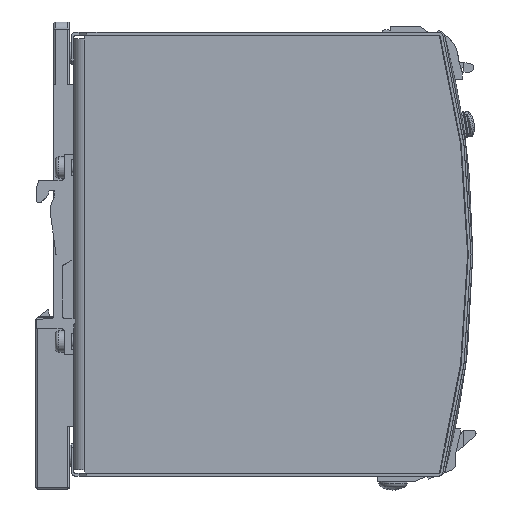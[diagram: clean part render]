
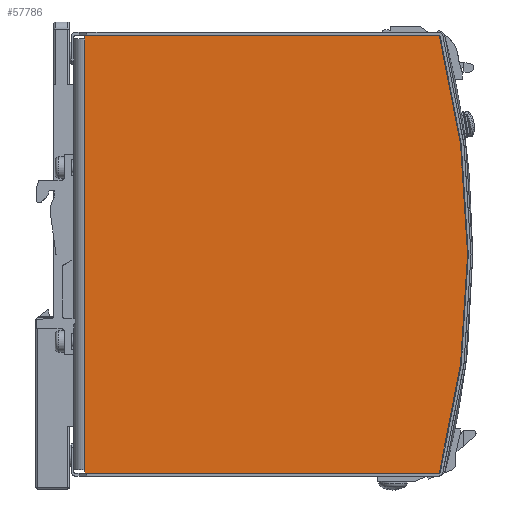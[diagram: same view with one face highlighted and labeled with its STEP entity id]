
A CAD part, front view. The second image highlights one B-rep face of the part: STEP entity #57786.
In plain terms, the highlighted planar face has unit normal (0, -1, 0).
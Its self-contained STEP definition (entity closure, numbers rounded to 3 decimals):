
#2279=CIRCLE('',#60751,240.);
#3209=FACE_OUTER_BOUND('',#6177,.T.);
#6177=EDGE_LOOP('',(#38558,#38559,#38560,#38561,#38562,#38563));
#10152=LINE('',#78587,#17270);
#10161=LINE('',#78615,#17279);
#10169=LINE('',#78626,#17287);
#10171=LINE('',#78630,#17289);
#10173=LINE('',#78633,#17291);
#17270=VECTOR('',#64361,1.);
#17279=VECTOR('',#64384,1.);
#17287=VECTOR('',#64398,99.079);
#17289=VECTOR('',#64404,120.3);
#17291=VECTOR('',#64408,99.079);
#24377=VERTEX_POINT('',#78545);
#24378=VERTEX_POINT('',#78547);
#24384=VERTEX_POINT('',#78561);
#24394=VERTEX_POINT('',#78585);
#24395=VERTEX_POINT('',#78589);
#24406=VERTEX_POINT('',#78614);
#30020=EDGE_CURVE('',#24378,#24377,#2279,.T.);
#30039=EDGE_CURVE('',#24394,#24384,#10152,.T.);
#30052=EDGE_CURVE('',#24395,#24406,#10161,.T.);
#30060=EDGE_CURVE('',#24394,#24378,#10169,.T.);
#30062=EDGE_CURVE('',#24384,#24395,#10171,.T.);
#30064=EDGE_CURVE('',#24377,#24406,#10173,.T.);
#38558=ORIENTED_EDGE('',*,*,#30020,.T.);
#38559=ORIENTED_EDGE('',*,*,#30064,.T.);
#38560=ORIENTED_EDGE('',*,*,#30052,.F.);
#38561=ORIENTED_EDGE('',*,*,#30062,.F.);
#38562=ORIENTED_EDGE('',*,*,#30039,.F.);
#38563=ORIENTED_EDGE('',*,*,#30060,.T.);
#55351=PLANE('',#60779);
#57786=ADVANCED_FACE('',(#3209),#55351,.T.);
#60751=AXIS2_PLACEMENT_3D('',#78548,#64327,#64328);
#60779=AXIS2_PLACEMENT_3D('',#78642,#64421,#64422);
#64327=DIRECTION('center_axis',(0.,-1.,0.));
#64328=DIRECTION('ref_axis',(-0.967,0.,0.255));
#64361=DIRECTION('',(0.,0.,1.));
#64384=DIRECTION('',(0.,0.,1.));
#64398=DIRECTION('',(1.,0.,0.));
#64404=DIRECTION('',(0.,0.,1.));
#64408=DIRECTION('',(-1.,0.,0.));
#64421=DIRECTION('center_axis',(0.,-1.,0.));
#64422=DIRECTION('ref_axis',(0.,0.,-1.));
#78545=CARTESIAN_POINT('',(102.079,-30.,61.15));
#78547=CARTESIAN_POINT('',(102.079,-30.,-61.15));
#78548=CARTESIAN_POINT('Origin',(-130.,-30.,0.));
#78561=CARTESIAN_POINT('',(3.,-30.,-60.15));
#78585=CARTESIAN_POINT('',(3.,-30.,-61.15));
#78587=CARTESIAN_POINT('',(3.,-30.,0.));
#78589=CARTESIAN_POINT('',(3.,-30.,60.15));
#78614=CARTESIAN_POINT('',(3.,-30.,61.15));
#78615=CARTESIAN_POINT('',(3.,-30.,0.));
#78626=CARTESIAN_POINT('',(3.,-30.,-61.15));
#78630=CARTESIAN_POINT('',(3.,-30.,0.));
#78633=CARTESIAN_POINT('',(3.,-30.,61.15));
#78642=CARTESIAN_POINT('Origin',(120.,-30.,0.));
